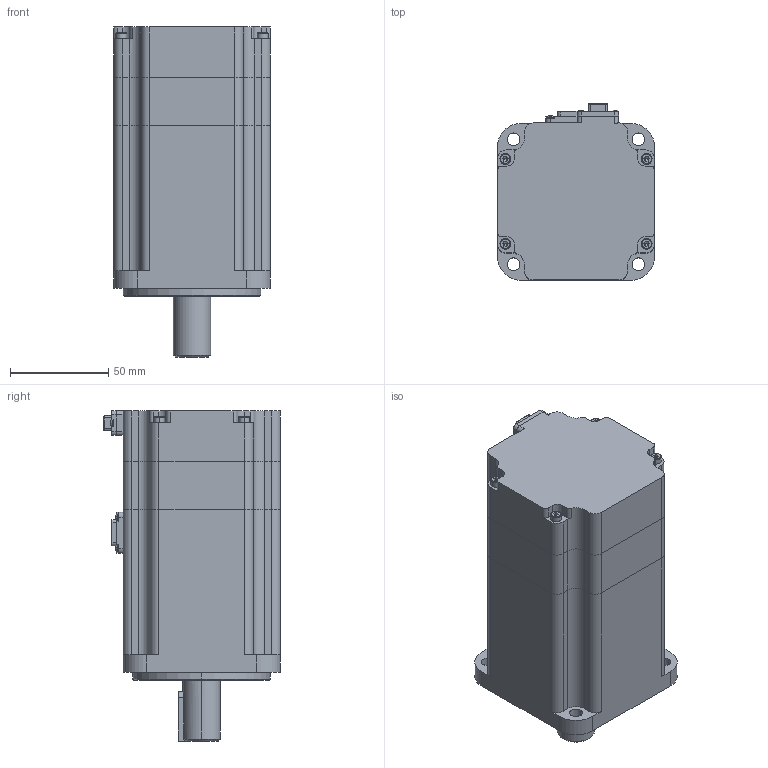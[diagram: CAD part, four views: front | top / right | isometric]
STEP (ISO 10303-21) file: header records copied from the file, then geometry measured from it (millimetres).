
FILE_DESCRIPTION (( 'STEP AP203' ), '1' );
FILE_NAME ('×°ÅäÌå1.STEP', '2023-04-28T07:30:03', ( '' ), ( '' ), 'SwSTEP 2.0', 'SolidWorks 2022', '' );
FILE_SCHEMA (( 'CONFIG_CONTROL_DESIGN' ));
Length unit declared in the file: millimetre
Products named in the file (8): 编码器罩-锐鹰绝对值分体磁编; sc-mc7p-a82g-00-信号底座; 装配体1; socket-mc6p11a_t0_asm三竹11A动力底座; 键C型键; hexagon socket head cap screws gb_GB_FASTENER_SCREWS_HSHCS M3X25-N; 前端盖-一体机壳; 刹车罩-80L50
Assembly tree (10 placements, depth 2):
  装配体1
    编码器罩-锐鹰绝对值分体磁编
    键C型键
    前端盖-一体机壳
    hexagon socket head cap screws gb_GB_FASTENER_SCREWS_HSHCS M3X25-N  x4
    刹车罩-80L50
    sc-mc7p-a82g-00-信号底座
    socket-mc6p11a_t0_asm三竹11A动力底座
Bounding box: 80 x 89.8 x 168.2 mm (x, y, z)
Volume: 773902.8 mm3; surface area: 89009.7 mm2
Topology: 24 solids, 24 shells, 1935 faces, 5093 edges, 3271 vertices
Faces by surface type: plane 1094, cylinder 616, cone 104, bspline 67, torus 54
Entity records: 76983 total; most frequent: CARTESIAN_POINT 29885, ORIENTED_EDGE 9770, DIRECTION 9358, EDGE_CURVE 4885, LINE 3266, VECTOR 3266, VERTEX_POINT 3172, AXIS2_PLACEMENT_3D 3046
